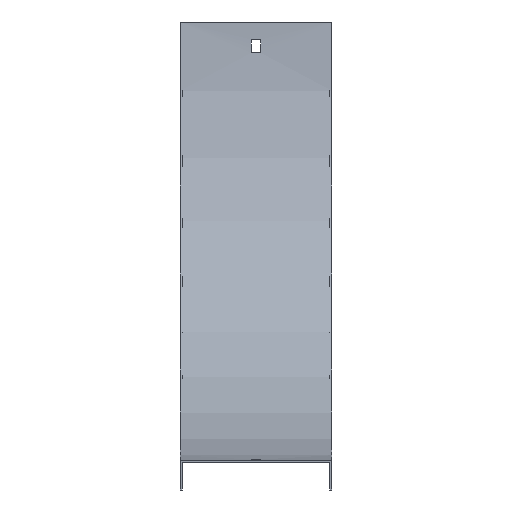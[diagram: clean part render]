
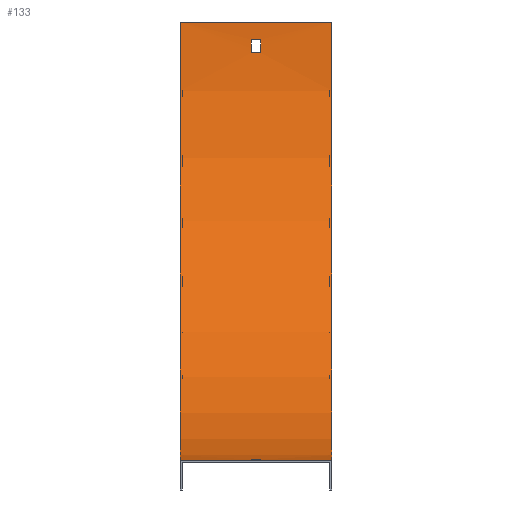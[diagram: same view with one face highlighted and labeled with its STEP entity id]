
A CAD part, top view. The second image highlights one B-rep face of the part: STEP entity #133.
In plain terms, the highlighted cylindrical face has radius 298.5 mm (diameter 597 mm), a partial arc.
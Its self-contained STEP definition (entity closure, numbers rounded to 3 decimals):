
#1 = AXIS2_PLACEMENT_3D ( 'NONE', #158, #387, #496 ) ;
#16 = CARTESIAN_POINT ( 'NONE',  ( 51.5, 0.74, -21. ) ) ;
#19 = VERTEX_POINT ( 'NONE', #319 ) ;
#20 = CARTESIAN_POINT ( 'NONE',  ( 51.5, 298.5, -298.5 ) ) ;
#23 = CARTESIAN_POINT ( 'NONE',  ( 51.5, 298.5, 0. ) ) ;
#29 = DIRECTION ( 'NONE',  ( -1., 0., 0. ) ) ;
#33 = VERTEX_POINT ( 'NONE', #132 ) ;
#38 = AXIS2_PLACEMENT_3D ( 'NONE', #103, #526, #384 ) ;
#54 = CIRCLE ( 'NONE', #79, 298.5 ) ;
#56 = CARTESIAN_POINT ( 'NONE',  ( 51.5, 0.241, -12. ) ) ;
#58 = ORIENTED_EDGE ( 'NONE', *, *, #225, .F. ) ;
#67 = CARTESIAN_POINT ( 'NONE',  ( -51.5, 298.5, -298.5 ) ) ;
#74 = DIRECTION ( 'NONE',  ( 0., 0., 1. ) ) ;
#79 = AXIS2_PLACEMENT_3D ( 'NONE', #309, #489, #539 ) ;
#86 = EDGE_CURVE ( 'NONE', #407, #102, #507, .T. ) ;
#102 = VERTEX_POINT ( 'NONE', #494 ) ;
#103 = CARTESIAN_POINT ( 'NONE',  ( 3.25, 298.5, 0. ) ) ;
#105 = ORIENTED_EDGE ( 'NONE', *, *, #417, .T. ) ;
#114 = ORIENTED_EDGE ( 'NONE', *, *, #86, .F. ) ;
#132 = CARTESIAN_POINT ( 'NONE',  ( 3.25, 277.5, -297.76 ) ) ;
#133 = ADVANCED_FACE ( 'NONE', ( #442, #166, #208 ), #348, .F. ) ;
#137 = CIRCLE ( 'NONE', #476, 298.5 ) ;
#142 = DIRECTION ( 'NONE',  ( 0., 0., 1. ) ) ;
#143 = EDGE_LOOP ( 'NONE', ( #316, #373, #290, #452 ) ) ;
#152 = VERTEX_POINT ( 'NONE', #20 ) ;
#158 = CARTESIAN_POINT ( 'NONE',  ( 51.5, 298.5, 0. ) ) ;
#163 = VECTOR ( 'NONE', #376, 1000. ) ;
#164 = CARTESIAN_POINT ( 'NONE',  ( -51.5, 298.5, 0. ) ) ;
#165 = VERTEX_POINT ( 'NONE', #538 ) ;
#166 = FACE_BOUND ( 'NONE', #143, .T. ) ;
#170 = VERTEX_POINT ( 'NONE', #296 ) ;
#174 = DIRECTION ( 'NONE',  ( -1., 0., 0. ) ) ;
#182 = CARTESIAN_POINT ( 'NONE',  ( 3.25, 0.241, -12. ) ) ;
#203 = VECTOR ( 'NONE', #260, 1000. ) ;
#208 = FACE_BOUND ( 'NONE', #537, .T. ) ;
#217 = VECTOR ( 'NONE', #29, 1000. ) ;
#219 = DIRECTION ( 'NONE',  ( -1., 0., 0. ) ) ;
#225 = EDGE_CURVE ( 'NONE', #170, #19, #532, .T. ) ;
#237 = EDGE_CURVE ( 'NONE', #152, #407, #515, .T. ) ;
#260 = DIRECTION ( 'NONE',  ( 1., 0., 0. ) ) ;
#273 = CARTESIAN_POINT ( 'NONE',  ( -3.25, 277.5, -297.76 ) ) ;
#274 = EDGE_CURVE ( 'NONE', #553, #102, #320, .T. ) ;
#285 = EDGE_LOOP ( 'NONE', ( #347, #114, #321, #105 ) ) ;
#286 = CARTESIAN_POINT ( 'NONE',  ( 51.5, 0., 0. ) ) ;
#290 = ORIENTED_EDGE ( 'NONE', *, *, #493, .T. ) ;
#296 = CARTESIAN_POINT ( 'NONE',  ( 3.25, 286.5, -298.259 ) ) ;
#301 = CARTESIAN_POINT ( 'NONE',  ( 51.5, 0., 0. ) ) ;
#308 = DIRECTION ( 'NONE',  ( 0., 0., 1. ) ) ;
#309 = CARTESIAN_POINT ( 'NONE',  ( 3.25, 298.5, 0. ) ) ;
#312 = VECTOR ( 'NONE', #219, 1000. ) ;
#316 = ORIENTED_EDGE ( 'NONE', *, *, #465, .T. ) ;
#319 = CARTESIAN_POINT ( 'NONE',  ( -3.25, 286.5, -298.259 ) ) ;
#320 = CIRCLE ( 'NONE', #435, 298.5 ) ;
#321 = ORIENTED_EDGE ( 'NONE', *, *, #237, .F. ) ;
#331 = LINE ( 'NONE', #428, #490 ) ;
#335 = CIRCLE ( 'NONE', #427, 298.5 ) ;
#341 = CARTESIAN_POINT ( 'NONE',  ( 51.5, 298.5, -298.5 ) ) ;
#345 = DIRECTION ( 'NONE',  ( -1., 0., 0. ) ) ;
#347 = ORIENTED_EDGE ( 'NONE', *, *, #274, .T. ) ;
#348 = CYLINDRICAL_SURFACE ( 'NONE', #425, 298.5 ) ;
#353 = EDGE_CURVE ( 'NONE', #525, #165, #137, .T. ) ;
#359 = EDGE_CURVE ( 'NONE', #592, #33, #331, .T. ) ;
#366 = VERTEX_POINT ( 'NONE', #534 ) ;
#373 = ORIENTED_EDGE ( 'NONE', *, *, #353, .T. ) ;
#376 = DIRECTION ( 'NONE',  ( -1., 0., 0. ) ) ;
#378 = EDGE_CURVE ( 'NONE', #366, #603, #561, .T. ) ;
#384 = DIRECTION ( 'NONE',  ( 0., 0., -1. ) ) ;
#387 = DIRECTION ( 'NONE',  ( -1., 0., 0. ) ) ;
#389 = LINE ( 'NONE', #341, #163 ) ;
#407 = VERTEX_POINT ( 'NONE', #286 ) ;
#409 = DIRECTION ( 'NONE',  ( 0., 1., 0. ) ) ;
#417 = EDGE_CURVE ( 'NONE', #152, #553, #389, .T. ) ;
#425 = AXIS2_PLACEMENT_3D ( 'NONE', #23, #174, #308 ) ;
#426 = DIRECTION ( 'NONE',  ( -1., 0., 0. ) ) ;
#427 = AXIS2_PLACEMENT_3D ( 'NONE', #582, #345, #409 ) ;
#428 = CARTESIAN_POINT ( 'NONE',  ( 51.5, 277.5, -297.76 ) ) ;
#434 = CARTESIAN_POINT ( 'NONE',  ( -3.25, 298.5, 0. ) ) ;
#435 = AXIS2_PLACEMENT_3D ( 'NONE', #164, #500, #74 ) ;
#442 = FACE_OUTER_BOUND ( 'NONE', #285, .T. ) ;
#452 = ORIENTED_EDGE ( 'NONE', *, *, #378, .T. ) ;
#462 = VECTOR ( 'NONE', #426, 1000. ) ;
#465 = EDGE_CURVE ( 'NONE', #603, #525, #481, .T. ) ;
#476 = AXIS2_PLACEMENT_3D ( 'NONE', #434, #563, #142 ) ;
#480 = ORIENTED_EDGE ( 'NONE', *, *, #567, .F. ) ;
#481 = LINE ( 'NONE', #56, #462 ) ;
#486 = CARTESIAN_POINT ( 'NONE',  ( 51.5, 286.5, -298.259 ) ) ;
#489 = DIRECTION ( 'NONE',  ( 1., 0., 0. ) ) ;
#490 = VECTOR ( 'NONE', #571, 1000. ) ;
#493 = EDGE_CURVE ( 'NONE', #165, #366, #587, .T. ) ;
#494 = CARTESIAN_POINT ( 'NONE',  ( -51.5, 0., 0. ) ) ;
#496 = DIRECTION ( 'NONE',  ( 0., 0., 1. ) ) ;
#500 = DIRECTION ( 'NONE',  ( -1., 0., 0. ) ) ;
#507 = LINE ( 'NONE', #301, #217 ) ;
#510 = ORIENTED_EDGE ( 'NONE', *, *, #359, .F. ) ;
#515 = CIRCLE ( 'NONE', #1, 298.5 ) ;
#516 = EDGE_CURVE ( 'NONE', #19, #592, #335, .T. ) ;
#525 = VERTEX_POINT ( 'NONE', #593 ) ;
#526 = DIRECTION ( 'NONE',  ( -1., 0., 0. ) ) ;
#532 = LINE ( 'NONE', #486, #312 ) ;
#534 = CARTESIAN_POINT ( 'NONE',  ( 3.25, 0.74, -21. ) ) ;
#537 = EDGE_LOOP ( 'NONE', ( #575, #58, #480, #510 ) ) ;
#538 = CARTESIAN_POINT ( 'NONE',  ( -3.25, 0.74, -21. ) ) ;
#539 = DIRECTION ( 'NONE',  ( 0., 0., 1. ) ) ;
#553 = VERTEX_POINT ( 'NONE', #67 ) ;
#561 = CIRCLE ( 'NONE', #38, 298.5 ) ;
#563 = DIRECTION ( 'NONE',  ( 1., 0., 0. ) ) ;
#567 = EDGE_CURVE ( 'NONE', #33, #170, #54, .T. ) ;
#571 = DIRECTION ( 'NONE',  ( 1., 0., 0. ) ) ;
#575 = ORIENTED_EDGE ( 'NONE', *, *, #516, .F. ) ;
#582 = CARTESIAN_POINT ( 'NONE',  ( -3.25, 298.5, 0. ) ) ;
#587 = LINE ( 'NONE', #16, #203 ) ;
#592 = VERTEX_POINT ( 'NONE', #273 ) ;
#593 = CARTESIAN_POINT ( 'NONE',  ( -3.25, 0.241, -12. ) ) ;
#603 = VERTEX_POINT ( 'NONE', #182 ) ;
